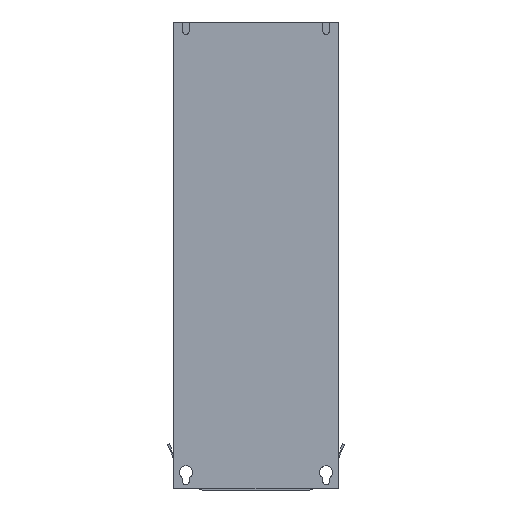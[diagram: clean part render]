
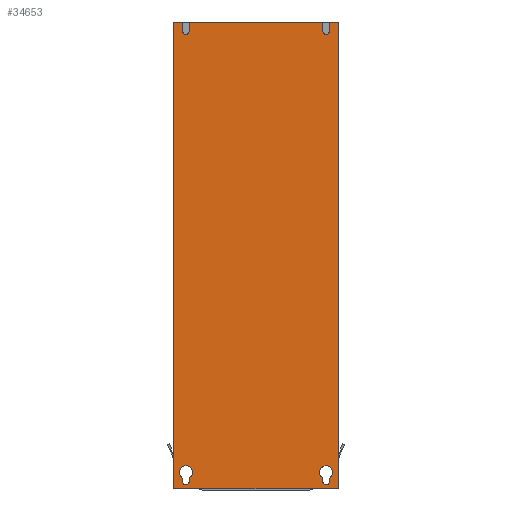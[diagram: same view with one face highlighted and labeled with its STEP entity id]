
A CAD part, front view. The second image highlights one B-rep face of the part: STEP entity #34653.
In plain terms, the highlighted planar face has unit normal (0, -1, 0).
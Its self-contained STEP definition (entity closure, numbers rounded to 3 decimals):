
#25=DIRECTION('',(1.,0.,0.));
#26=VECTOR('',#25,300.);
#27=CARTESIAN_POINT('',(-150.,0.,-425.));
#28=LINE('',#27,#26);
#4192=DIRECTION('',(0.,0.,1.));
#4193=VECTOR('',#4192,850.);
#4194=CARTESIAN_POINT('',(150.,0.,-425.));
#4195=LINE('',#4194,#4193);
#4834=DIRECTION('',(0.,0.,1.));
#4835=VECTOR('',#4834,17.);
#4836=CARTESIAN_POINT('',(133.25,0.,408.));
#4837=LINE('',#4836,#4835);
#4838=DIRECTION('',(1.,0.,0.));
#4839=VECTOR('',#4838,16.75);
#4840=CARTESIAN_POINT('',(133.25,0.,425.));
#4841=LINE('',#4840,#4839);
#4842=DIRECTION('',(0.,0.,1.));
#4843=VECTOR('',#4842,850.);
#4844=CARTESIAN_POINT('',(-150.,0.,-425.));
#4845=LINE('',#4844,#4843);
#4846=DIRECTION('',(1.,0.,0.));
#4847=VECTOR('',#4846,16.75);
#4848=CARTESIAN_POINT('',(-150.,0.,425.));
#4849=LINE('',#4848,#4847);
#4850=DIRECTION('',(0.,0.,-1.));
#4851=VECTOR('',#4850,17.);
#4852=CARTESIAN_POINT('',(-133.25,0.,425.));
#4853=LINE('',#4852,#4851);
#4854=CARTESIAN_POINT('',(-127.5,0.,408.));
#4855=DIRECTION('',(0.,-1.,0.));
#4856=DIRECTION('',(-1.,0.,0.));
#4857=AXIS2_PLACEMENT_3D('',#4854,#4855,#4856);
#4859=DIRECTION('',(0.,0.,1.));
#4860=VECTOR('',#4859,17.);
#4861=CARTESIAN_POINT('',(-121.75,0.,408.));
#4862=LINE('',#4861,#4860);
#4863=DIRECTION('',(1.,0.,0.));
#4864=VECTOR('',#4863,243.5);
#4865=CARTESIAN_POINT('',(-121.75,0.,425.));
#4866=LINE('',#4865,#4864);
#4867=DIRECTION('',(0.,0.,-1.));
#4868=VECTOR('',#4867,17.);
#4869=CARTESIAN_POINT('',(121.75,0.,425.));
#4870=LINE('',#4869,#4868);
#4871=CARTESIAN_POINT('',(127.5,0.,408.));
#4872=DIRECTION('',(0.,-1.,0.));
#4873=DIRECTION('',(-1.,0.,0.));
#4874=AXIS2_PLACEMENT_3D('',#4871,#4872,#4873);
#4876=CARTESIAN_POINT('',(-127.5,0.,-412.));
#4877=DIRECTION('',(0.,-1.,0.));
#4878=DIRECTION('',(-1.,0.,0.));
#4879=AXIS2_PLACEMENT_3D('',#4876,#4877,#4878);
#4881=DIRECTION('',(0.,0.,1.));
#4882=VECTOR('',#4881,6.467);
#4883=CARTESIAN_POINT('',(-121.75,0.,-412.));
#4884=LINE('',#4883,#4882);
#4885=CARTESIAN_POINT('',(-127.5,0.,-395.));
#4886=DIRECTION('',(0.,-1.,0.));
#4887=DIRECTION('',(0.479,0.,-0.878));
#4888=AXIS2_PLACEMENT_3D('',#4885,#4886,#4887);
#4890=CARTESIAN_POINT('',(-127.5,0.,-395.));
#4891=DIRECTION('',(0.,-1.,0.));
#4892=DIRECTION('',(1.,0.,0.));
#4893=AXIS2_PLACEMENT_3D('',#4890,#4891,#4892);
#4895=CARTESIAN_POINT('',(-127.5,0.,-395.));
#4896=DIRECTION('',(0.,-1.,0.));
#4897=DIRECTION('',(-0.479,0.,0.878));
#4898=AXIS2_PLACEMENT_3D('',#4895,#4896,#4897);
#4900=CARTESIAN_POINT('',(-127.5,0.,-395.));
#4901=DIRECTION('',(0.,-1.,0.));
#4902=DIRECTION('',(-1.,0.,0.));
#4903=AXIS2_PLACEMENT_3D('',#4900,#4901,#4902);
#4905=DIRECTION('',(0.,0.,-1.));
#4906=VECTOR('',#4905,6.467);
#4907=CARTESIAN_POINT('',(-133.25,0.,-405.533));
#4908=LINE('',#4907,#4906);
#4909=DIRECTION('',(0.,0.,1.));
#4910=VECTOR('',#4909,6.467);
#4911=CARTESIAN_POINT('',(133.25,0.,-412.));
#4912=LINE('',#4911,#4910);
#4913=CARTESIAN_POINT('',(127.5,0.,-395.));
#4914=DIRECTION('',(0.,-1.,0.));
#4915=DIRECTION('',(0.479,0.,-0.878));
#4916=AXIS2_PLACEMENT_3D('',#4913,#4914,#4915);
#4918=CARTESIAN_POINT('',(127.5,0.,-395.));
#4919=DIRECTION('',(0.,-1.,0.));
#4920=DIRECTION('',(1.,0.,0.));
#4921=AXIS2_PLACEMENT_3D('',#4918,#4919,#4920);
#4923=CARTESIAN_POINT('',(127.5,0.,-395.));
#4924=DIRECTION('',(0.,-1.,0.));
#4925=DIRECTION('',(-0.479,0.,0.878));
#4926=AXIS2_PLACEMENT_3D('',#4923,#4924,#4925);
#4928=CARTESIAN_POINT('',(127.5,0.,-395.));
#4929=DIRECTION('',(0.,-1.,0.));
#4930=DIRECTION('',(-1.,0.,0.));
#4931=AXIS2_PLACEMENT_3D('',#4928,#4929,#4930);
#4933=DIRECTION('',(0.,0.,-1.));
#4934=VECTOR('',#4933,6.467);
#4935=CARTESIAN_POINT('',(121.75,0.,-405.533));
#4936=LINE('',#4935,#4934);
#4937=CARTESIAN_POINT('',(127.5,0.,-412.));
#4938=DIRECTION('',(0.,-1.,0.));
#4939=DIRECTION('',(-1.,0.,0.));
#4940=AXIS2_PLACEMENT_3D('',#4937,#4938,#4939);
#24395=CARTESIAN_POINT('',(-150.,0.,-425.));
#24396=VERTEX_POINT('',#24395);
#24397=CARTESIAN_POINT('',(150.,0.,-425.));
#24398=VERTEX_POINT('',#24397);
#25899=CARTESIAN_POINT('',(150.,0.,425.));
#25900=VERTEX_POINT('',#25899);
#26183=CARTESIAN_POINT('',(133.25,0.,408.));
#26184=CARTESIAN_POINT('',(133.25,0.,425.));
#26185=VERTEX_POINT('',#26183);
#26186=VERTEX_POINT('',#26184);
#26187=CARTESIAN_POINT('',(-150.,0.,425.));
#26188=VERTEX_POINT('',#26187);
#26189=CARTESIAN_POINT('',(-133.25,0.,425.));
#26190=VERTEX_POINT('',#26189);
#26191=CARTESIAN_POINT('',(-133.25,0.,408.));
#26192=VERTEX_POINT('',#26191);
#26193=CARTESIAN_POINT('',(-121.75,0.,408.));
#26194=VERTEX_POINT('',#26193);
#26195=CARTESIAN_POINT('',(-121.75,0.,425.));
#26196=VERTEX_POINT('',#26195);
#26197=CARTESIAN_POINT('',(121.75,0.,425.));
#26198=VERTEX_POINT('',#26197);
#26199=CARTESIAN_POINT('',(121.75,0.,408.));
#26200=VERTEX_POINT('',#26199);
#26201=CARTESIAN_POINT('',(-133.25,0.,-412.));
#26202=CARTESIAN_POINT('',(-121.75,0.,-412.));
#26203=VERTEX_POINT('',#26201);
#26204=VERTEX_POINT('',#26202);
#26205=CARTESIAN_POINT('',(-121.75,0.,-405.533));
#26206=VERTEX_POINT('',#26205);
#26207=CARTESIAN_POINT('',(-115.5,0.,-395.));
#26208=VERTEX_POINT('',#26207);
#26209=CARTESIAN_POINT('',(-133.25,0.,-384.467));
#26210=VERTEX_POINT('',#26209);
#26211=CARTESIAN_POINT('',(-139.5,0.,-395.));
#26212=VERTEX_POINT('',#26211);
#26213=CARTESIAN_POINT('',(-133.25,0.,-405.533));
#26214=VERTEX_POINT('',#26213);
#26215=CARTESIAN_POINT('',(133.25,0.,-412.));
#26216=CARTESIAN_POINT('',(133.25,0.,-405.533));
#26217=VERTEX_POINT('',#26215);
#26218=VERTEX_POINT('',#26216);
#26219=CARTESIAN_POINT('',(139.5,0.,-395.));
#26220=VERTEX_POINT('',#26219);
#26221=CARTESIAN_POINT('',(121.75,0.,-384.467));
#26222=VERTEX_POINT('',#26221);
#26223=CARTESIAN_POINT('',(115.5,0.,-395.));
#26224=VERTEX_POINT('',#26223);
#26225=CARTESIAN_POINT('',(121.75,0.,-405.533));
#26226=VERTEX_POINT('',#26225);
#26227=CARTESIAN_POINT('',(121.75,0.,-412.));
#26228=VERTEX_POINT('',#26227);
#34593=CARTESIAN_POINT('',(0.,0.,0.));
#34594=DIRECTION('',(0.,1.,0.));
#34595=DIRECTION('',(1.,0.,0.));
#34596=AXIS2_PLACEMENT_3D('',#34593,#34594,#34595);
#34597=PLANE('',#34596);
#34598=ORIENTED_EDGE('',*,*,#34583,.T.);
#34600=ORIENTED_EDGE('',*,*,#34599,.T.);
#34601=ORIENTED_EDGE('',*,*,#33699,.F.);
#34602=ORIENTED_EDGE('',*,*,#31855,.F.);
#34604=ORIENTED_EDGE('',*,*,#34603,.T.);
#34606=ORIENTED_EDGE('',*,*,#34605,.T.);
#34608=ORIENTED_EDGE('',*,*,#34607,.T.);
#34610=ORIENTED_EDGE('',*,*,#34609,.T.);
#34612=ORIENTED_EDGE('',*,*,#34611,.T.);
#34614=ORIENTED_EDGE('',*,*,#34613,.T.);
#34616=ORIENTED_EDGE('',*,*,#34615,.T.);
#34618=ORIENTED_EDGE('',*,*,#34617,.T.);
#34619=EDGE_LOOP('',(#34598,#34600,#34601,#34602,#34604,#34606,#34608,#34610,
#34612,#34614,#34616,#34618));
#34620=FACE_OUTER_BOUND('',#34619,.F.);
#34622=ORIENTED_EDGE('',*,*,#34621,.T.);
#34624=ORIENTED_EDGE('',*,*,#34623,.T.);
#34626=ORIENTED_EDGE('',*,*,#34625,.T.);
#34628=ORIENTED_EDGE('',*,*,#34627,.T.);
#34630=ORIENTED_EDGE('',*,*,#34629,.T.);
#34632=ORIENTED_EDGE('',*,*,#34631,.T.);
#34634=ORIENTED_EDGE('',*,*,#34633,.T.);
#34635=EDGE_LOOP('',(#34622,#34624,#34626,#34628,#34630,#34632,#34634));
#34636=FACE_BOUND('',#34635,.F.);
#34638=ORIENTED_EDGE('',*,*,#34637,.T.);
#34640=ORIENTED_EDGE('',*,*,#34639,.T.);
#34642=ORIENTED_EDGE('',*,*,#34641,.T.);
#34644=ORIENTED_EDGE('',*,*,#34643,.T.);
#34646=ORIENTED_EDGE('',*,*,#34645,.T.);
#34648=ORIENTED_EDGE('',*,*,#34647,.T.);
#34650=ORIENTED_EDGE('',*,*,#34649,.T.);
#34651=EDGE_LOOP('',(#34638,#34640,#34642,#34644,#34646,#34648,#34650));
#34652=FACE_BOUND('',#34651,.F.);
#34653=ADVANCED_FACE('',(#34620,#34636,#34652),#34597,.F.);
#4858=CIRCLE('',#4857,5.75);
#4875=CIRCLE('',#4874,5.75);
#4880=CIRCLE('',#4879,5.75);
#4889=CIRCLE('',#4888,12.);
#4894=CIRCLE('',#4893,12.);
#4899=CIRCLE('',#4898,12.);
#4904=CIRCLE('',#4903,12.);
#4917=CIRCLE('',#4916,12.);
#4922=CIRCLE('',#4921,12.);
#4927=CIRCLE('',#4926,12.);
#4932=CIRCLE('',#4931,12.);
#4941=CIRCLE('',#4940,5.75);
#31855=EDGE_CURVE('',#24396,#24398,#28,.T.);
#33699=EDGE_CURVE('',#24398,#25900,#4195,.T.);
#34583=EDGE_CURVE('',#26185,#26186,#4837,.T.);
#34599=EDGE_CURVE('',#26186,#25900,#4841,.T.);
#34603=EDGE_CURVE('',#24396,#26188,#4845,.T.);
#34605=EDGE_CURVE('',#26188,#26190,#4849,.T.);
#34607=EDGE_CURVE('',#26190,#26192,#4853,.T.);
#34609=EDGE_CURVE('',#26192,#26194,#4858,.T.);
#34611=EDGE_CURVE('',#26194,#26196,#4862,.T.);
#34613=EDGE_CURVE('',#26196,#26198,#4866,.T.);
#34615=EDGE_CURVE('',#26198,#26200,#4870,.T.);
#34617=EDGE_CURVE('',#26200,#26185,#4875,.T.);
#34621=EDGE_CURVE('',#26203,#26204,#4880,.T.);
#34623=EDGE_CURVE('',#26204,#26206,#4884,.T.);
#34625=EDGE_CURVE('',#26206,#26208,#4889,.T.);
#34627=EDGE_CURVE('',#26208,#26210,#4894,.T.);
#34629=EDGE_CURVE('',#26210,#26212,#4899,.T.);
#34631=EDGE_CURVE('',#26212,#26214,#4904,.T.);
#34633=EDGE_CURVE('',#26214,#26203,#4908,.T.);
#34637=EDGE_CURVE('',#26217,#26218,#4912,.T.);
#34639=EDGE_CURVE('',#26218,#26220,#4917,.T.);
#34641=EDGE_CURVE('',#26220,#26222,#4922,.T.);
#34643=EDGE_CURVE('',#26222,#26224,#4927,.T.);
#34645=EDGE_CURVE('',#26224,#26226,#4932,.T.);
#34647=EDGE_CURVE('',#26226,#26228,#4936,.T.);
#34649=EDGE_CURVE('',#26228,#26217,#4941,.T.);
